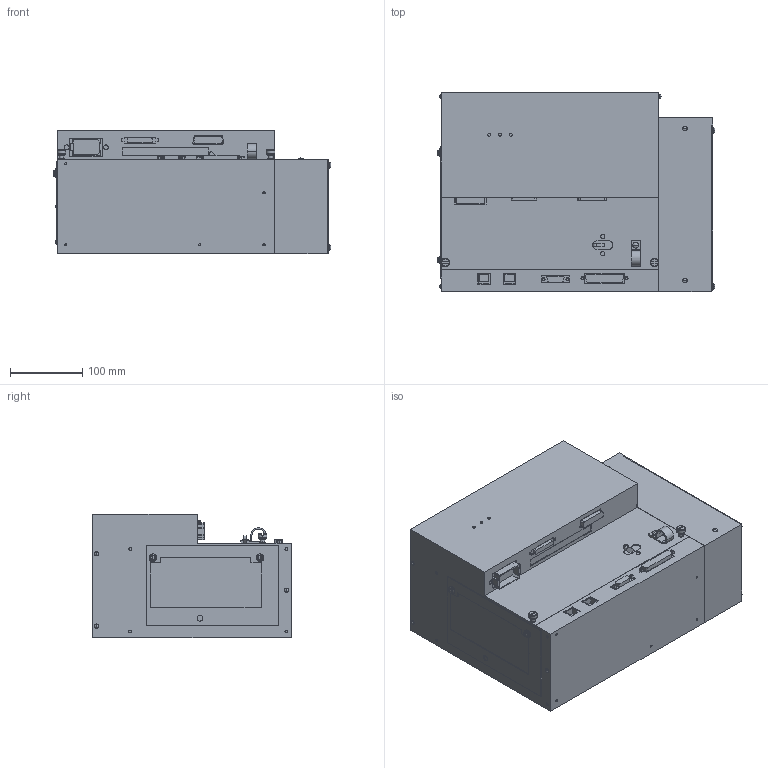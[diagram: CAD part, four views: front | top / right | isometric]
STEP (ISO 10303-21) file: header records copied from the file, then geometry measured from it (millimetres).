
FILE_DESCRIPTION( ( '' ), '1' );
FILE_NAME( '//expscmdclustefs.cadenas.external/client_exchange/iodir/jobs/output/wkb51549581_no0/STEP/RC620DU_AAU_2_03.stp', '2012-11-23T14:17:35', ( '' ), ( '' ), ' ', ' ', ' ' );
FILE_SCHEMA( ( 'CONFIG_CONTROL_DESIGN' ) );
Length unit declared in the file: millimetre
Products named in the file (2): 1; 2
Bounding box: 383.97 x 275 x 170.5 mm (x, y, z)
Volume: 14843585.3 mm3; surface area: 483937.4 mm2
Topology: 2 solids, 2 shells, 505 faces, 1227 edges, 796 vertices
Faces by surface type: plane 285, cylinder 180, torus 24, cone 12, sphere 4
Entity records: 14753 total; most frequent: DIRECTION 2625, CARTESIAN_POINT 2522, ORIENTED_EDGE 2406, EDGE_CURVE 1203, AXIS2_PLACEMENT_3D 923, VERTEX_POINT 796, LINE 779, VECTOR 779
